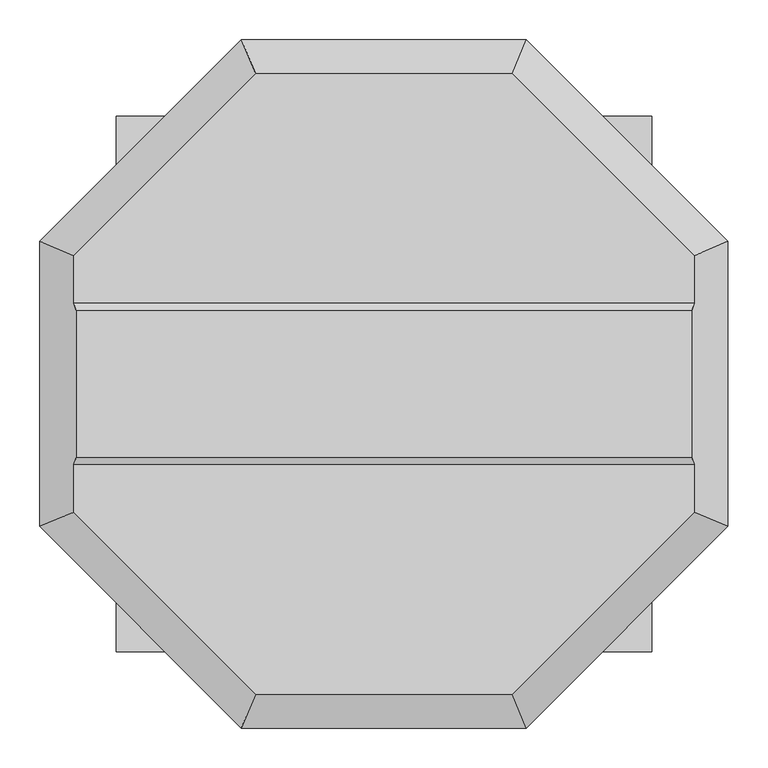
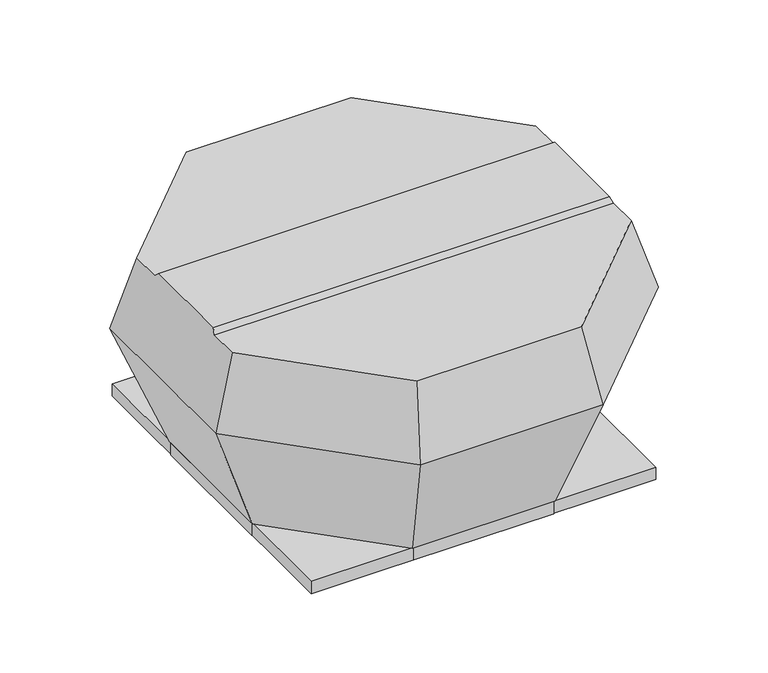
"""IFC4 building model written with IfcOpenShell, lengths in millimetres: unitary equipment geometry, VE-Wentylator-ParaForma-Harmann-VIVER_PT-Wywiewny : 4-450/5500PT."""

import ifcopenshell
import ifcopenshell.guid

model = None  # the IFC model being written
_history = None  # IfcOwnerHistory: only IFC2X3 demands one
_inside = {}  # id of a spatial element -> (the spatial element, [elements in it])
_under = {}  # id of a project, library or spatial element -> (it, [spatial elements below it])
_declared = {}  # id of a project -> (the project, [libraries it declares])
_typed = {}  # id of a type object -> (the type object, [elements of that type])
_made_of = {}  # id of a material, layer set ... -> (it, [elements and type objects made of it])


def new_model(schema):
    """Start an empty IFC model of exactly this schema.

    Asked for "IFC4X3", IfcOpenShell would pick the latest addendum, in which some entities
    have other attributes; the version numbers below select the first issue.
    IFC2X3 requires an IfcOwnerHistory on every rooted entity: one is made here for all.
    """
    global model, _history
    if schema == "IFC4X3":
        model = ifcopenshell.file(schema_version=(4, 3, 0, 0))
    else:
        model = ifcopenshell.file(schema=schema)
    _inside.clear()
    _under.clear()
    _declared.clear()
    _typed.clear()
    _made_of.clear()
    _history = None
    if model.schema == "IFC2X3":
        org = make("IfcOrganization", Name="unknown")
        user = make(
            "IfcPersonAndOrganization",
            ThePerson=make("IfcPerson", FamilyName="unknown"),
            TheOrganization=org,
        )
        app = make(
            "IfcApplication",
            ApplicationDeveloper=org,
            Version="unknown",
            ApplicationFullName="unknown",
            ApplicationIdentifier="unknown",
        )
        _history = make(
            "IfcOwnerHistory",
            OwningUser=user,
            OwningApplication=app,
            ChangeAction="ADDED",
            CreationDate=0,
        )
    return model


def make(cls, **values):
    """One entity of the class cls with the attributes given. An attribute that is None is left unset."""
    return model.create_entity(
        cls, **{name: value for name, value in values.items() if value is not None}
    )


def rooted(cls, **values):
    """An entity with a GlobalId (a new one), such as an element, a storey or a relation."""
    return make(cls, GlobalId=ifcopenshell.guid.new(), OwnerHistory=_history, **values)


def si_unit(unit_type, name, prefix=None):
    """IfcSIUnit, for example si_unit("LENGTHUNIT", "METRE", prefix="MILLI")."""
    return make("IfcSIUnit", UnitType=unit_type, Prefix=prefix, Name=name)


def assignment(units):
    """IfcUnitAssignment: the units of a project."""
    return None if units is None else make("IfcUnitAssignment", Units=units)


def point(xyz):
    """IfcCartesianPoint."""
    return None if xyz is None else make("IfcCartesianPoint", Coordinates=xyz)


def direction(xyz):
    """IfcDirection."""
    return None if xyz is None else make("IfcDirection", DirectionRatios=xyz)


def frame(location, z_axis=None, x_axis=None):
    """IfcAxis2Placement3D, a coordinate frame: its origin and axes. An axis left out is left unset."""
    return make(
        "IfcAxis2Placement3D",
        Location=point(location),
        Axis=direction(z_axis),
        RefDirection=direction(x_axis),
    )


def origin():
    """The frame at (0, 0, 0) with its axes left unset."""
    return frame((0.0, 0.0, 0.0))


def place(relative_to, where):
    """IfcLocalPlacement: puts the frame where relative to a parent placement (None: the world)."""
    return make(
        "IfcLocalPlacement", PlacementRelTo=relative_to, RelativePlacement=where
    )


def context(
    kind, dimensions, precision=None, world=None, true_north=None, identifier=None
):
    """IfcGeometricRepresentationContext, for example the 3D "Model" context."""
    return make(
        "IfcGeometricRepresentationContext",
        ContextIdentifier=identifier,
        ContextType=kind,
        CoordinateSpaceDimension=dimensions,
        Precision=precision,
        WorldCoordinateSystem=world,
        TrueNorth=true_north,
    )


def project(units=None, contexts=None):
    """IfcProject with its units and contexts."""
    return rooted(
        "IfcProject",
        Name="project",
        RepresentationContexts=contexts,
        UnitsInContext=assignment(units),
    )


def spatial(cls, under=None, at=None, **own):
    """A site, building, storey or space (cls), placed at a placement, below another one or the project."""
    s = rooted(cls, ObjectPlacement=at, **own)
    if under is not None:
        _under.setdefault(under.id(), (under, []))[1].append(s)
    return s


def faces_of(points, faces, orient=None, outer=None):
    """IfcFace entities. A face is a list of loops; a loop is a list of indices into points, from 0.

    orient and outer hold one flag for each loop. By default every Orientation is true, the
    first loop of a face is its IfcFaceOuterBound and the others are IfcFaceBound.
    """
    made = []
    for i, loops in enumerate(faces):
        bounds = []
        for j, loop in enumerate(loops):
            is_outer = j == 0 if outer is None else outer[i][j]
            bounds.append(
                make(
                    "IfcFaceOuterBound" if is_outer else "IfcFaceBound",
                    Bound=make("IfcPolyLoop", Polygon=[points[k] for k in loop]),
                    Orientation=True if orient is None else orient[i][j],
                )
            )
        made.append(make("IfcFace", Bounds=bounds))
    return made


def faceted_brep(points, faces, orient=None, outer=None, voids=None):
    """IfcFacetedBrep: a solid bounded by flat faces; with voids (closed shells), ...WithVoids."""
    shared = [point(p) for p in points]
    hull = make("IfcClosedShell", CfsFaces=faces_of(shared, faces, orient, outer))
    if voids is None:
        return make("IfcFacetedBrep", Outer=hull)
    return make(
        "IfcFacetedBrepWithVoids",
        Outer=hull,
        Voids=[
            make(cls, CfsFaces=faces_of(shared, fs, o, b)) for cls, fs, o, b in voids
        ],
    )


def shape(context_of_items, identifier, shape_type, items):
    """IfcShapeRepresentation: the items that make up one representation, for example the "Body"."""
    return make(
        "IfcShapeRepresentation",
        ContextOfItems=context_of_items,
        RepresentationIdentifier=identifier,
        RepresentationType=shape_type,
        Items=items,
    )


def source(mapping_origin, context_of_items, identifier, shape_type, items):
    """IfcRepresentationMap: a shape defined once, which mapped items show again and again."""
    return make(
        "IfcRepresentationMap",
        MappingOrigin=mapping_origin,
        MappedRepresentation=shape(context_of_items, identifier, shape_type, items),
    )


def transform(
    local_origin,
    x_axis=None,
    y_axis=None,
    z_axis=None,
    scale=None,
    scale2=None,
    scale3=None,
    uniform=True,
):
    """IfcCartesianTransformationOperator3D, or its non-uniform kind. x_axis, y_axis, z_axis: its Axis1, 2, 3."""
    if uniform:
        return make(
            "IfcCartesianTransformationOperator3D",
            Axis1=direction(x_axis),
            Axis2=direction(y_axis),
            LocalOrigin=point(local_origin),
            Scale=scale,
            Axis3=direction(z_axis),
        )
    return make(
        "IfcCartesianTransformationOperator3DnonUniform",
        Axis1=direction(x_axis),
        Axis2=direction(y_axis),
        LocalOrigin=point(local_origin),
        Scale=scale,
        Axis3=direction(z_axis),
        Scale2=scale2,
        Scale3=scale3,
    )


def mapped(mapping_source, mapping_target):
    """IfcMappedItem: shows the shape of a source again, moved by a transform."""
    return make(
        "IfcMappedItem", MappingSource=mapping_source, MappingTarget=mapping_target
    )


def made_of(thing, what):
    """Note that an element or type object is made of a material, layer set ...; save() writes the relation."""
    if what is not None:
        _made_of.setdefault(what.id(), (what, []))[1].append(thing)
    return thing


def element(
    cls,
    number,
    at=None,
    inside=None,
    cuts=None,
    type_object=None,
    material=None,
    context=None,
    identifier="Body",
    shape_type=None,
    held_by="IfcProductDefinitionShape",
    body=None,
    shapes=None,
    **own,
):
    """One element of the class cls, such as IfcWall. Its Tag is "e" and its number.

    at: its placement. inside: the storey or other place that contains it. cuts: it is an
    opening in that element (IfcRelVoidsElement). A single representation is given by context,
    identifier, shape_type and body (its items); several are given by shapes. held_by: the class
    of the entity that holds the representations. save() writes the other relations.
    """
    e = rooted(cls, Tag="e%d" % number, ObjectPlacement=at, **own)
    if body is not None:
        shapes = [shape(context, identifier, shape_type, body)]
    if shapes is not None:
        e.Representation = make(held_by, Representations=shapes)
    if inside is not None:
        _inside.setdefault(inside.id(), (inside, []))[1].append(e)
    if cuts is not None:
        rooted(
            "IfcRelVoidsElement", RelatingBuildingElement=cuts, RelatedOpeningElement=e
        )
    if type_object is not None:
        _typed.setdefault(type_object.id(), (type_object, []))[1].append(e)
    return made_of(e, material)


def aggregate(whole, parts):
    """IfcRelAggregates: a whole, such as a stair, and the parts it consists of."""
    return rooted("IfcRelAggregates", RelatingObject=whole, RelatedObjects=parts)


def save(model, path):
    """Write the relations noted so far, then the file.

    IfcRelAggregates (storeys below a building ...), IfcRelContainedInSpatialStructure (elements
    in a storey), IfcRelDefinesByType, IfcRelAssociatesMaterial and IfcRelDeclares: one each for
    every whole, place, type object, material and project.
    """
    for whole, parts in _under.values():
        aggregate(whole, parts)
    for where, things in _inside.values():
        rooted(
            "IfcRelContainedInSpatialStructure",
            RelatedElements=things,
            RelatingStructure=where,
        )
    for kind, things in _typed.values():
        rooted("IfcRelDefinesByType", RelatedObjects=things, RelatingType=kind)
    for what, things in _made_of.values():
        rooted("IfcRelAssociatesMaterial", RelatedObjects=things, RelatingMaterial=what)
    for by, libraries in _declared.values():
        rooted("IfcRelDeclares", RelatingContext=by, RelatedDefinitions=libraries)
    model.write(path)


def unitary_equipment_13a05785(model_context):
    return source(origin(), model_context, "Body", "Brep", [
        faceted_brep([(385.2519817, -91.75, 394.0), (385.2519817, 91.75, 394.0), (-385.2519817, 91.75, 394.0), (-385.2519817, -91.75, 394.0), (387.9641195, 100.75, 385.0), (-387.9641195, 100.75, 385.0), (387.9641195, -100.75, 385.0), (-387.9641195, -100.75, 385.0), (160.7, -387.9641195, 385.0), (387.9641195, -160.7, 385.0), (-387.9641195, -160.7, 385.0), (-160.7, -387.9641195, 385.0), (387.9641195, 160.7, 385.0), (160.7, 387.9641195, 385.0), (-160.7, 387.9641195, 385.0), (-387.9641195, 160.7, 385.0), (178.3, -430.4542782, 244.0), (430.4542782, -178.3, 244.0), (430.4542782, 178.3, 244.0), (178.3, 430.4542782, 244.0), (-178.3, 430.4542782, 244.0), (-430.4542782, 178.3, 244.0), (-430.4542782, -178.3, 244.0), (-178.3, -430.4542782, 244.0), (139.25, -336.1792386, 1.5), (-139.25, -336.1792386, 1.5), (-336.1792386, -139.25, 1.5), (-336.1792386, 139.25, 1.5), (-139.25, 336.1792386, 1.5), (139.25, 336.1792386, 1.5), (336.1792386, 139.25, 1.5), (336.1792386, -139.25, 1.5)], [[[0, 1, 2, 3]], [[1, 4, 5, 2]], [[6, 0, 3, 7]], [[8, 9, 6, 7, 10, 11]], [[12, 13, 14, 15, 5, 4]], [[9, 8, 16, 17]], [[9, 17, 18, 12, 4, 1, 0, 6]], [[13, 12, 18, 19]], [[14, 13, 19, 20]], [[15, 14, 20, 21]], [[15, 21, 22, 10, 7, 3, 2, 5]], [[11, 10, 22, 23]], [[8, 11, 23, 16]], [[24, 25, 26, 27, 28, 29, 30, 31]], [[24, 31, 17, 16]], [[31, 30, 18, 17]], [[30, 29, 19, 18]], [[29, 28, 20, 19]], [[28, 27, 21, 20]], [[27, 26, 22, 21]], [[26, 25, 23, 22]], [[25, 24, 16, 23]]]),
        faceted_brep([(333.55, 333.55, -23.5), (333.55, 333.55, 0.0), (-333.55, 333.55, 0.0), (-333.55, 333.55, -23.5), (335.05, 335.05, 1.5), (335.05, 335.05, -23.5), (-335.05, 335.05, -23.5), (-335.05, 335.05, 1.5), (-333.55, -333.55, 0.0), (-333.55, -333.55, -23.5), (-335.05, -335.05, -23.5), (-335.05, -335.05, 1.5), (333.55, -333.55, 0.0), (333.55, -333.55, -23.5), (335.05, -335.05, -23.5), (335.05, -335.05, 1.5)], [[[0, 1, 2, 3]], [[4, 5, 6, 7]], [[3, 2, 8, 9]], [[7, 6, 10, 11]], [[9, 8, 12, 13]], [[11, 10, 14, 15]], [[13, 12, 1, 0]], [[5, 14, 10, 6], [3, 9, 13, 0]], [[15, 14, 5, 4]], [[7, 11, 15, 4]], [[1, 12, 8, 2]]]),
        faceted_brep([(-335.1, -136.1, -23.5), (-336.1, -136.1, -23.5), (-336.1, 136.1, -23.5), (-335.1, 136.1, -23.5), (-335.1, -136.1, 1.5), (-335.1, 136.1, 1.5), (-336.1, 136.1, 1.5), (-336.1, -136.1, 1.5)], [[[0, 1, 2, 3]], [[4, 5, 6, 7]], [[1, 0, 4, 7]], [[2, 1, 7, 6]], [[3, 2, 6, 5]], [[0, 3, 5, 4]]]),
        faceted_brep([(336.1, -136.1, -23.5), (335.1, -136.1, -23.5), (335.1, 136.1, -23.5), (336.1, 136.1, -23.5), (336.1, 136.1, 1.5), (335.1, 136.1, 1.5), (335.1, 5.0, 1.5), (335.1, -5.0, 1.5), (335.1, -136.1, 1.5), (336.1, -136.1, 1.5), (336.1, -5.0, 1.5), (336.1, 5.0, 1.5)], [[[0, 1, 2, 3]], [[4, 5, 6, 7, 8, 9, 10, 11]], [[1, 0, 9, 8]], [[2, 1, 8, 7, 6, 5]], [[3, 2, 5, 4]], [[0, 3, 4, 11, 10, 9]]]),
        faceted_brep([(136.1, 335.1, -23.5), (-136.1, 335.1, -23.5), (-136.1, 336.1, -23.5), (136.1, 336.1, -23.5), (136.1, 335.1, 1.5), (136.1, 336.1, 1.5), (-136.1, 336.1, 1.5), (-136.1, 335.1, 1.5)], [[[0, 1, 2, 3]], [[4, 5, 6, 7]], [[1, 0, 4, 7]], [[2, 1, 7, 6]], [[3, 2, 6, 5]], [[0, 3, 5, 4]]]),
        faceted_brep([(136.1, -336.1, -23.5), (-136.1, -336.1, -23.5), (-136.1, -335.1, -23.5), (136.1, -335.1, -23.5), (136.1, -336.1, 1.5), (136.1, -335.1, 1.5), (-136.1, -335.1, 1.5), (-136.1, -336.1, 1.5)], [[[0, 1, 2, 3]], [[4, 5, 6, 7]], [[1, 0, 4, 7]], [[2, 1, 7, 6]], [[3, 2, 6, 5]], [[0, 3, 5, 4]]]),
    ])


if __name__ == "__main__":
    model = new_model("IFC4")
    model_context = context("Model", 3, world=origin())
    ifc_project = project(units=[si_unit("LENGTHUNIT", "METRE", prefix="MILLI")], contexts=[model_context])
    site = spatial("IfcSite", under=ifc_project)
    building = spatial("IfcBuilding", under=site)
    placement = place(None, origin())
    unitary_equipment_shape = unitary_equipment_13a05785(model_context)
    element("IfcUnitaryEquipment", 1, ObjectType="VE-Wentylator-ParaForma-Harmann-VIVER_PT-Wywiewny : 4-450/5500PT", at=placement, inside=building, context=model_context, shape_type="MappedRepresentation", body=[
        mapped(unitary_equipment_shape, transform((0.0, 0.0, 0.0), x_axis=(1.0, 0.0, 0.0), y_axis=(0.0, 1.0, 0.0), z_axis=(0.0, 0.0, 1.0))),
    ])
    save(model, "model.ifc")
